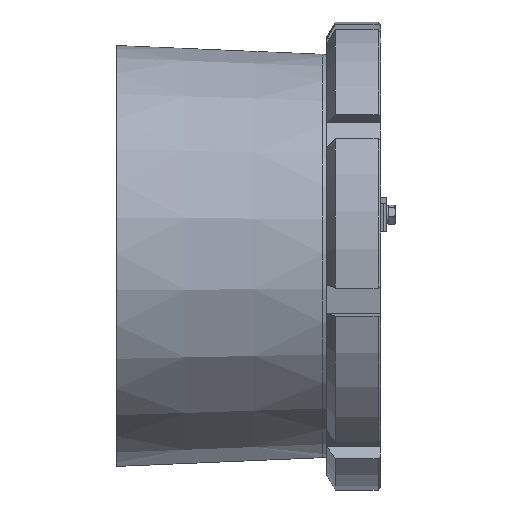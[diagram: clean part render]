
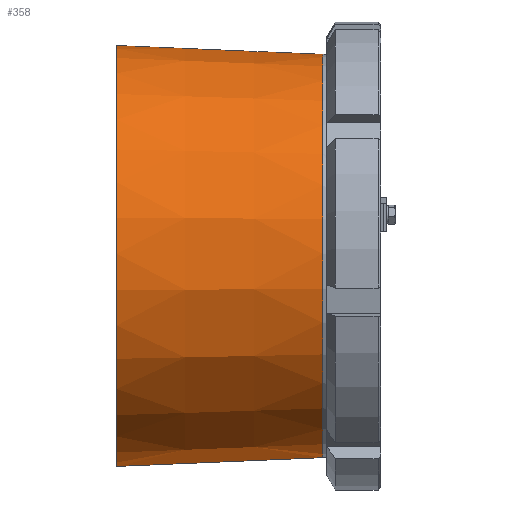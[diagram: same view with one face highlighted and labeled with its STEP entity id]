
A CAD part, top view. The second image highlights one B-rep face of the part: STEP entity #358.
In plain terms, the highlighted conical face has half-angle 2.436 degrees and reference radius 280 mm.
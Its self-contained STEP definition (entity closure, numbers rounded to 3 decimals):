
#358 = ADVANCED_FACE( '', ( #773 ), #774, .T. );
#773 = FACE_OUTER_BOUND( '', #1498, .T. );
#774 = CONICAL_SURFACE( '', #1499, 280., 0.043 );
#1498 = EDGE_LOOP( '', ( #2660, #2661, #2662, #2663 ) );
#1499 = AXIS2_PLACEMENT_3D( '', #2664, #2665, #2666 );
#2660 = ORIENTED_EDGE( '', *, *, #4954, .F. );
#2661 = ORIENTED_EDGE( '', *, *, #4984, .F. );
#2662 = ORIENTED_EDGE( '', *, *, #4985, .T. );
#2663 = ORIENTED_EDGE( '', *, *, #4986, .T. );
#2664 = CARTESIAN_POINT( '', ( -81., 0., 0. ) );
#2665 = DIRECTION( '', ( -1., 0., 0. ) );
#2666 = DIRECTION( '', ( 0., 0., 1. ) );
#4954 = EDGE_CURVE( '', #5929, #5931, #5932, .T. );
#4984 = EDGE_CURVE( '', #5979, #5929, #5980, .T. );
#4985 = EDGE_CURVE( '', #5979, #5981, #5982, .T. );
#4986 = EDGE_CURVE( '', #5981, #5931, #5983, .T. );
#5929 = VERTEX_POINT( '', #7504 );
#5931 = VERTEX_POINT( '', #7507 );
#5932 = B_SPLINE_CURVE_WITH_KNOTS( '', 3, ( #7508, #7509, #7510, #7511, #7512, #7513, #7514 ), .UNSPECIFIED., .F., .F., ( 4, 3, 4 ), ( 0.308, 0.557, 0.595 ), .UNSPECIFIED. );
#5979 = VERTEX_POINT( '', #7586 );
#5980 = CIRCLE( '', #7587, 280. );
#5981 = VERTEX_POINT( '', #7588 );
#5982 = B_SPLINE_CURVE_WITH_KNOTS( '', 3, ( #7589, #7590, #7591, #7592, #7593, #7594, #7595 ), .UNSPECIFIED., .F., .F., ( 4, 3, 4 ), ( 0.308, 0.557, 0.595 ), .UNSPECIFIED. );
#5983 = CIRCLE( '', #7596, 292.167 );
#7504 = CARTESIAN_POINT( '', ( -81., -279.955, 5. ) );
#7507 = CARTESIAN_POINT( '', ( -367., -292.124, 5. ) );
#7508 = CARTESIAN_POINT( '', ( -81., -279.955, 5. ) );
#7509 = CARTESIAN_POINT( '', ( -163.922, -283.483, 5. ) );
#7510 = CARTESIAN_POINT( '', ( -246.844, -287.011, 5. ) );
#7511 = CARTESIAN_POINT( '', ( -329.765, -290.54, 5. ) );
#7512 = CARTESIAN_POINT( '', ( -342.177, -291.068, 5. ) );
#7513 = CARTESIAN_POINT( '', ( -354.588, -291.596, 5. ) );
#7514 = CARTESIAN_POINT( '', ( -367., -292.124, 5. ) );
#7586 = CARTESIAN_POINT( '', ( -81., -279.955, -5. ) );
#7587 = AXIS2_PLACEMENT_3D( '', #9639, #9640, #9641 );
#7588 = CARTESIAN_POINT( '', ( -367., -292.124, -5. ) );
#7589 = CARTESIAN_POINT( '', ( -81., -279.955, -5. ) );
#7590 = CARTESIAN_POINT( '', ( -163.922, -283.483, -5. ) );
#7591 = CARTESIAN_POINT( '', ( -246.844, -287.011, -5. ) );
#7592 = CARTESIAN_POINT( '', ( -329.765, -290.54, -5. ) );
#7593 = CARTESIAN_POINT( '', ( -342.177, -291.068, -5. ) );
#7594 = CARTESIAN_POINT( '', ( -354.588, -291.596, -5. ) );
#7595 = CARTESIAN_POINT( '', ( -367., -292.124, -5. ) );
#7596 = AXIS2_PLACEMENT_3D( '', #9642, #9643, #9644 );
#9639 = CARTESIAN_POINT( '', ( -81., 0., 0. ) );
#9640 = DIRECTION( '', ( 1., 0., 0. ) );
#9641 = DIRECTION( '', ( 0., 0., -1. ) );
#9642 = CARTESIAN_POINT( '', ( -367., 0., 0. ) );
#9643 = DIRECTION( '', ( 1., 0., 0. ) );
#9644 = DIRECTION( '', ( 0., 0., -1. ) );
